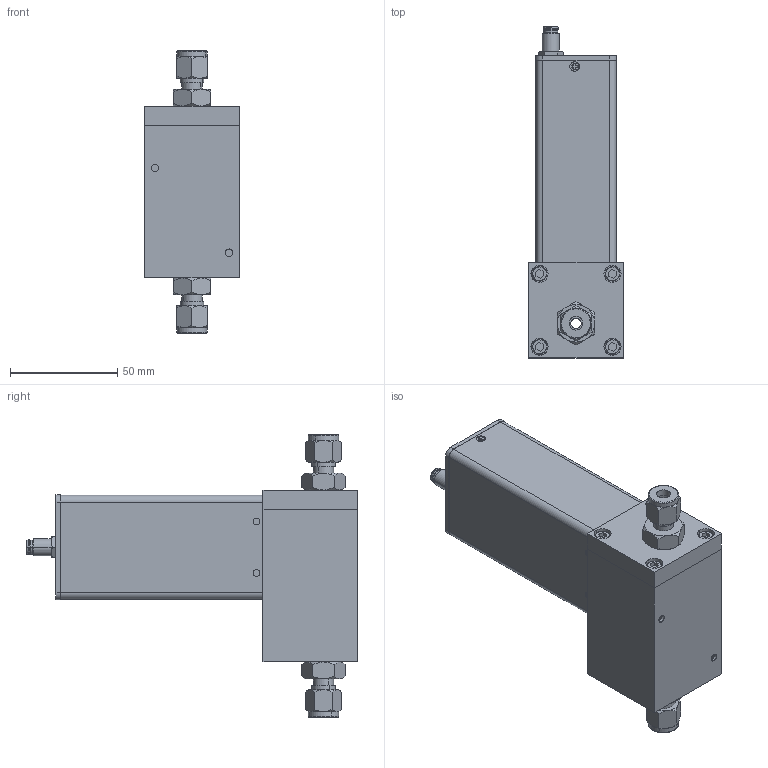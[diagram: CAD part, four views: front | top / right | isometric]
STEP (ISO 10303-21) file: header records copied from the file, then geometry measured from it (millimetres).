
FILE_DESCRIPTION (( 'STEP AP203' ), '1' );
FILE_NAME ('SLA5861-E-1B-0-A-REVB.STEP', '2023-04-25T15:49:05', ( '' ), ( '' ), 'SwSTEP 2.0', 'SolidWorks 2020', '' );
FILE_SCHEMA (( 'CONFIG_CONTROL_DESIGN' ));
Products named in the file (1): SLA5861-E-1B-0-A-REVB
Bounding box: 44.17 x 154.43 x 131.32 mm (x, y, z)
Volume: 57961.6 mm3; surface area: 82653.9 mm2
Topology: 22 solids, 22 shells, 1879 faces, 5000 edges, 3260 vertices
Faces by surface type: plane 1191, cylinder 489, cone 136, bspline 63
Entity records: 60453 total; most frequent: CARTESIAN_POINT 13127, ORIENTED_EDGE 9952, DIRECTION 9565, EDGE_CURVE 4976, LINE 3605, VECTOR 3605, VERTEX_POINT 3260, AXIS2_PLACEMENT_3D 2980
